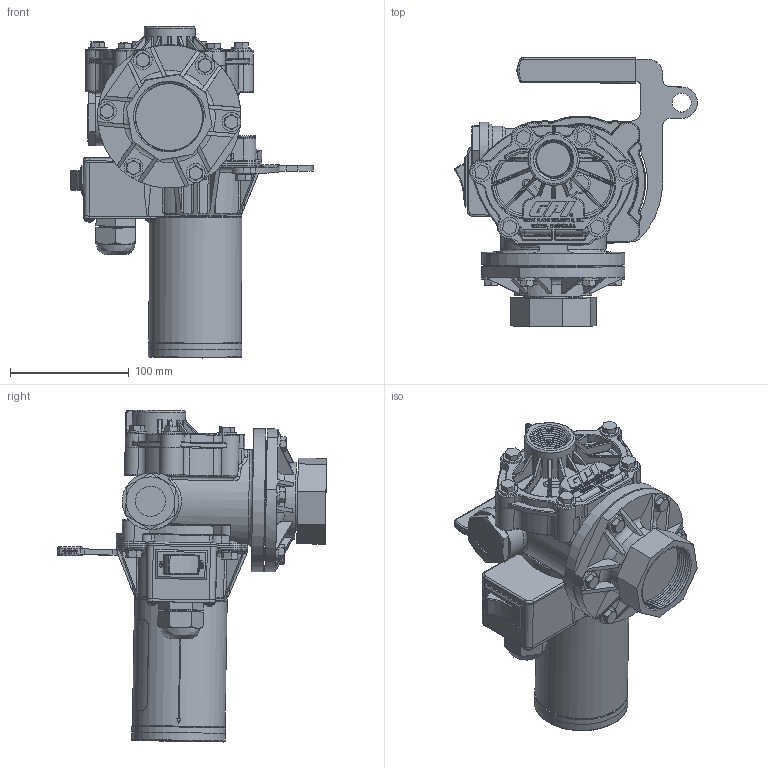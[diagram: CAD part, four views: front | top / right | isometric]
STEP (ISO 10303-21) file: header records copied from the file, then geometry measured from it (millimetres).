
FILE_DESCRIPTION(/* description */ (''),/* implementation_level */ '2;1');
FILE_NAME(/* name */ 'C:\Vault Projects\GPI Eng\New Projects\DHarris\Website model updates\STEP\P-200H-2UR.stp',/* time_stamp */ '2022-07-20T14:41:52-05:00',/* author */ ('gdanhar'),/* organization */ (''),/* preprocessor_version */ 'ST-DEVELOPER v18.1',/* originating_system */ 'Autodesk Inventor 2022',/* authorisation */ '');
FILE_SCHEMA (('AUTOMOTIVE_DESIGN { 1 0 10303 214 3 1 1 }'));
Length unit declared in the file: inch
Products named in the file (1): P-200H-2UR
Bounding box: 204.62 x 226.75 x 279.7 mm (x, y, z)
Volume: 2343128.6 mm3; surface area: 255099.8 mm2
Topology: 2 solids, 6 shells, 2380 faces, 6209 edges, 3963 vertices
Faces by surface type: plane 1168, cylinder 417, bspline 401, torus 280, cone 101, sphere 13
Full cylindrical faces by diameter (mm): 2.337 x1, 2.438 x1, 3.048 x1, 6.35 x6, 8.179 x4, 15.329 x2, 15.494 x2, 15.875 x6, 16.002 x7, 18.415 x2, 25.4 x1, 27.94 x1, 50.317 x1, 56.363 x1, 56.967 x8, 65.075 x1, 76.2 x1, 77.953 x1, 88.697 x1, 88.849 x1, 120.65 x1
Entity records: 95719 total; most frequent: CARTESIAN_POINT 38050, ORIENTED_EDGE 12378, DIRECTION 10240, EDGE_CURVE 6189, VERTEX_POINT 3963, AXIS2_PLACEMENT_3D 3515, LINE 3210, VECTOR 3210
